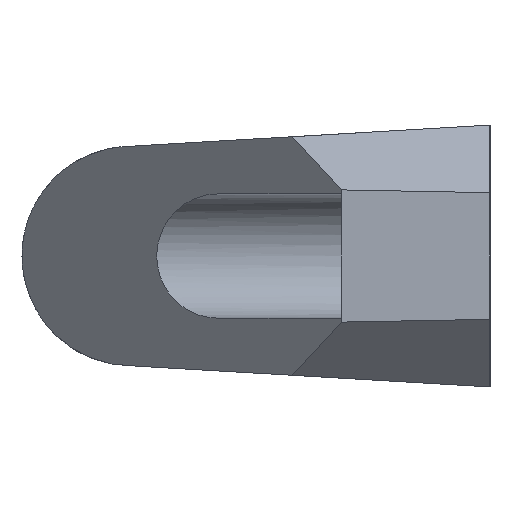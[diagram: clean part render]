
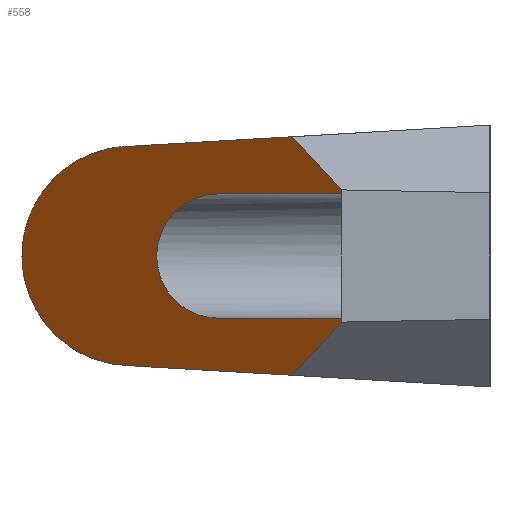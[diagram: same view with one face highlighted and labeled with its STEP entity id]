
A CAD part, left-side view. The second image highlights one B-rep face of the part: STEP entity #558.
In plain terms, the highlighted planar face has unit normal (-0.701, 0.714, 0).
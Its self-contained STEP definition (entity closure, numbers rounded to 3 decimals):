
#478 = EDGE_CURVE ( 'NONE', #577, #559, #1582, .T. ) ;
#479 = ORIENTED_EDGE ( 'NONE', *, *, #542, .F. ) ;
#480 = ORIENTED_EDGE ( 'NONE', *, *, #560, .F. ) ;
#531 = VERTEX_POINT ( 'NONE', #1715 ) ;
#532 = VERTEX_POINT ( 'NONE', #1709 ) ;
#533 = VERTEX_POINT ( 'NONE', #1707 ) ;
#536 = VERTEX_POINT ( 'NONE', #1708 ) ;
#541 = VERTEX_POINT ( 'NONE', #1705 ) ;
#542 = EDGE_CURVE ( 'NONE', #533, #532, #1751, .T. ) ;
#545 = EDGE_CURVE ( 'NONE', #579, #533, #1738, .T. ) ;
#546 = ORIENTED_EDGE ( 'NONE', *, *, #478, .F. ) ;
#548 = EDGE_CURVE ( 'NONE', #541, #531, #1732, .T. ) ;
#557 = ORIENTED_EDGE ( 'NONE', *, *, #575, .F. ) ;
#558 = ADVANCED_FACE ( 'NONE', ( #1794 ), #1836, .F. ) ;
#559 = VERTEX_POINT ( 'NONE', #1787 ) ;
#560 = EDGE_CURVE ( 'NONE', #532, #577, #1820, .T. ) ;
#570 = ORIENTED_EDGE ( 'NONE', *, *, #545, .F. ) ;
#571 = VERTEX_POINT ( 'NONE', #1838 ) ;
#574 = ORIENTED_EDGE ( 'NONE', *, *, #578, .F. ) ;
#575 = EDGE_CURVE ( 'NONE', #571, #584, #1843, .T. ) ;
#577 = VERTEX_POINT ( 'NONE', #1855 ) ;
#578 = EDGE_CURVE ( 'NONE', #536, #579, #1893, .T. ) ;
#579 = VERTEX_POINT ( 'NONE', #1892 ) ;
#583 = EDGE_CURVE ( 'NONE', #584, #536, #1667, .T. ) ;
#584 = VERTEX_POINT ( 'NONE', #1925 ) ;
#586 = ORIENTED_EDGE ( 'NONE', *, *, #583, .F. ) ;
#587 = ORIENTED_EDGE ( 'NONE', *, *, #548, .F. ) ;
#588 = EDGE_CURVE ( 'NONE', #531, #571, #1924, .T. ) ;
#589 = EDGE_CURVE ( 'NONE', #559, #541, #1912, .T. ) ;
#590 = ORIENTED_EDGE ( 'NONE', *, *, #588, .F. ) ;
#592 = ORIENTED_EDGE ( 'NONE', *, *, #589, .F. ) ;
#595 = EDGE_LOOP ( 'NONE', ( #546, #480, #479, #570, #574, #586, #557, #590, #587, #592 ) ) ;
#1578 = CARTESIAN_POINT ( 'NONE',  ( -515.2, 32.225, -7.35 ) ) ;
#1579 = CARTESIAN_POINT ( 'NONE',  ( -500.5, 46.66, -7.35 ) ) ;
#1580 = CARTESIAN_POINT ( 'NONE',  ( -500.5, 46.66, 7.35 ) ) ;
#1581 = CARTESIAN_POINT ( 'NONE',  ( -515.2, 32.225, 7.35 ) ) ;
#1582 =( BOUNDED_CURVE ( )  B_SPLINE_CURVE ( 3, ( #1581, #1580, #1579, #1578 ),
 .UNSPECIFIED., .F., .T. ) 
 B_SPLINE_CURVE_WITH_KNOTS ( ( 4, 4 ),
 ( 1.571, 4.712 ),
 .UNSPECIFIED. ) 
 CURVE ( )  GEOMETRIC_REPRESENTATION_ITEM ( )  RATIONAL_B_SPLINE_CURVE ( ( 1., 0.333, 0.333, 1. ) ) 
 REPRESENTATION_ITEM ( '' )  );
#1667 =( BOUNDED_CURVE ( )  B_SPLINE_CURVE ( 3, ( #1886, #1885, #1856, #1873 ),
 .UNSPECIFIED., .F., .F. ) 
 B_SPLINE_CURVE_WITH_KNOTS ( ( 4, 4 ),
 ( 4.712, 7.854 ),
 .UNSPECIFIED. ) 
 CURVE ( )  GEOMETRIC_REPRESENTATION_ITEM ( )  RATIONAL_B_SPLINE_CURVE ( ( 1., 0.333, 0.333, 1. ) ) 
 REPRESENTATION_ITEM ( '' )  );
#1705 = CARTESIAN_POINT ( 'NONE',  ( -530.093, 17.6, -7.35 ) ) ;
#1707 = CARTESIAN_POINT ( 'NONE',  ( -530.093, 17.6, 7.826 ) ) ;
#1708 = CARTESIAN_POINT ( 'NONE',  ( -504.838, 42.4, 13. ) ) ;
#1709 = CARTESIAN_POINT ( 'NONE',  ( -530.093, 17.6, 7.35 ) ) ;
#1715 = CARTESIAN_POINT ( 'NONE',  ( -530.093, 17.6, -7.826 ) ) ;
#1732 = LINE ( 'NONE', #1741, #1783 ) ;
#1734 = VECTOR ( 'NONE', #1754, 1000. ) ;
#1736 = VECTOR ( 'NONE', #1785, 1000. ) ;
#1737 = CARTESIAN_POINT ( 'NONE',  ( -527.459, 20.187, 10.617 ) ) ;
#1738 = LINE ( 'NONE', #1737, #1736 ) ;
#1740 = DIRECTION ( 'NONE',  ( 0., 0., -1. ) ) ;
#1741 = CARTESIAN_POINT ( 'NONE',  ( -530.093, 17.6, 15.5 ) ) ;
#1751 = LINE ( 'NONE', #1755, #1734 ) ;
#1754 = DIRECTION ( 'NONE',  ( 0., 0., -1. ) ) ;
#1755 = CARTESIAN_POINT ( 'NONE',  ( -530.093, 17.6, 15.5 ) ) ;
#1783 = VECTOR ( 'NONE', #1740, 1000. ) ;
#1785 = DIRECTION ( 'NONE',  ( -0.569, -0.559, -0.603 ) ) ;
#1787 = CARTESIAN_POINT ( 'NONE',  ( -515.2, 32.225, -7.35 ) ) ;
#1793 = AXIS2_PLACEMENT_3D ( 'NONE', #1818, #1817, #1816 ) ;
#1794 = FACE_OUTER_BOUND ( 'NONE', #595, .T. ) ;
#1814 = DIRECTION ( 'NONE',  ( 0.713, 0.701, 0. ) ) ;
#1815 = VECTOR ( 'NONE', #1814, 1000. ) ;
#1816 = DIRECTION ( 'NONE',  ( -0.713, -0.701, 0. ) ) ;
#1817 = DIRECTION ( 'NONE',  ( 0.701, -0.713, 0. ) ) ;
#1818 = CARTESIAN_POINT ( 'NONE',  ( -530.093, 17.6, 15.5 ) ) ;
#1819 = CARTESIAN_POINT ( 'NONE',  ( -530.093, 17.6, 7.35 ) ) ;
#1820 = LINE ( 'NONE', #1819, #1815 ) ;
#1836 = PLANE ( 'NONE',  #1793 ) ;
#1838 = CARTESIAN_POINT ( 'NONE',  ( -524.154, 23.432, -14.118 ) ) ;
#1841 = DIRECTION ( 'NONE',  ( 0.713, 0.7, 0.041 ) ) ;
#1842 = CARTESIAN_POINT ( 'NONE',  ( -529.211, 18.466, -14.411 ) ) ;
#1843 = LINE ( 'NONE', #1842, #1894 ) ;
#1855 = CARTESIAN_POINT ( 'NONE',  ( -515.2, 32.225, 7.35 ) ) ;
#1856 = CARTESIAN_POINT ( 'NONE',  ( -478.362, 68.4, 13. ) ) ;
#1873 = CARTESIAN_POINT ( 'NONE',  ( -504.838, 42.4, 13. ) ) ;
#1885 = CARTESIAN_POINT ( 'NONE',  ( -478.362, 68.4, -13. ) ) ;
#1886 = CARTESIAN_POINT ( 'NONE',  ( -504.838, 42.4, -13. ) ) ;
#1887 = DIRECTION ( 'NONE',  ( -0.713, -0.7, 0.041 ) ) ;
#1888 = VECTOR ( 'NONE', #1887, 1000. ) ;
#1889 = CARTESIAN_POINT ( 'NONE',  ( -530.123, 17.57, 14.464 ) ) ;
#1892 = CARTESIAN_POINT ( 'NONE',  ( -524.154, 23.432, 14.118 ) ) ;
#1893 = LINE ( 'NONE', #1889, #1888 ) ;
#1894 = VECTOR ( 'NONE', #1841, 1000. ) ;
#1908 = DIRECTION ( 'NONE',  ( -0.713, -0.701, 0. ) ) ;
#1909 = VECTOR ( 'NONE', #1908, 1000. ) ;
#1911 = CARTESIAN_POINT ( 'NONE',  ( -530.093, 17.6, -7.35 ) ) ;
#1912 = LINE ( 'NONE', #1911, #1909 ) ;
#1913 = DIRECTION ( 'NONE',  ( 0.569, 0.559, -0.603 ) ) ;
#1914 = VECTOR ( 'NONE', #1913, 1000. ) ;
#1915 = CARTESIAN_POINT ( 'NONE',  ( -538.099, 9.738, 0.658 ) ) ;
#1924 = LINE ( 'NONE', #1915, #1914 ) ;
#1925 = CARTESIAN_POINT ( 'NONE',  ( -504.838, 42.4, -13. ) ) ;
